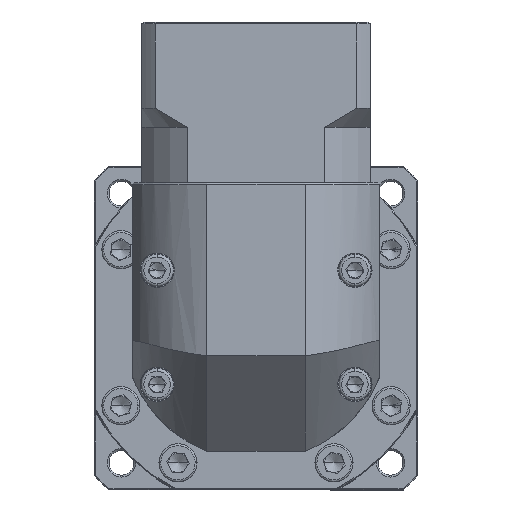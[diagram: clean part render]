
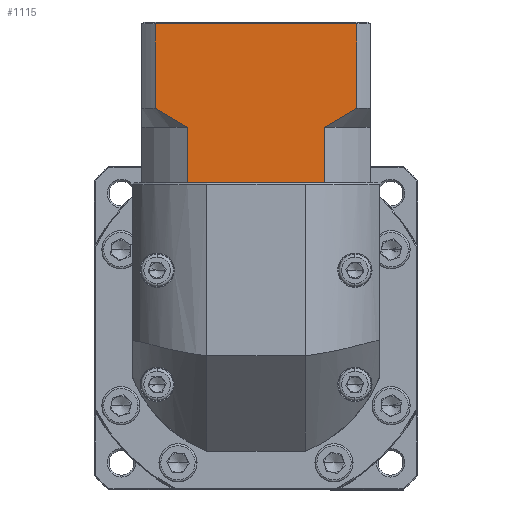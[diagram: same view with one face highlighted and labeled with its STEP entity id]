
A CAD part, top view. The second image highlights one B-rep face of the part: STEP entity #1115.
In plain terms, the highlighted planar face has unit normal (0, 0, 1).
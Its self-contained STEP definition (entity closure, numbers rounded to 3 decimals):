
#1115 = ADVANCED_FACE ( 'NONE', ( #37849 ), #25105, .F. ) ;
#1740 = DIRECTION ( 'NONE',  ( 1., 0., 0. ) ) ;
#2250 = CARTESIAN_POINT ( 'NONE',  ( -55.932, 59.958, 41.119 ) ) ;
#4308 = CARTESIAN_POINT ( 'NONE',  ( -54.941, 59.958, 41.119 ) ) ;
#4606 = VERTEX_POINT ( 'NONE', #2250 ) ;
#5157 = B_SPLINE_CURVE_WITH_KNOTS ( 'NONE', 3,
 ( #68075, #87482, #129347, #46867, #47736, #117454 ),
 .UNSPECIFIED., .F., .F.,
 ( 4, 2, 4 ),
 ( 0.1, 0.104, 0.109 ),
 .UNSPECIFIED. ) ;
#7081 = EDGE_CURVE ( 'NONE', #14600, #31326, #82410, .T. ) ;
#9772 = LINE ( 'NONE', #111837, #14532 ) ;
#11993 = DIRECTION ( 'NONE',  ( 0., 1., 0. ) ) ;
#12532 = CARTESIAN_POINT ( 'NONE',  ( -99.427, 79.458, 41.119 ) ) ;
#14532 = VECTOR ( 'NONE', #72142, 1000. ) ;
#14600 = VERTEX_POINT ( 'NONE', #109725 ) ;
#19141 = CARTESIAN_POINT ( 'NONE',  ( -46.512, 79.458, 41.119 ) ) ;
#20353 = LINE ( 'NONE', #92929, #63112 ) ;
#21055 = ORIENTED_EDGE ( 'NONE', *, *, #94317, .T. ) ;
#25105 = PLANE ( 'NONE',  #71636 ) ;
#26863 = VERTEX_POINT ( 'NONE', #77198 ) ;
#26908 = LINE ( 'NONE', #95545, #121609 ) ;
#27023 = ORIENTED_EDGE ( 'NONE', *, *, #46005, .T. ) ;
#28994 = CARTESIAN_POINT ( 'NONE',  ( -90.997, 59.958, 41.119 ) ) ;
#31326 = VERTEX_POINT ( 'NONE', #67905 ) ;
#31336 = VERTEX_POINT ( 'NONE', #28994 ) ;
#32384 = VECTOR ( 'NONE', #11993, 1000. ) ;
#33716 = CARTESIAN_POINT ( 'NONE',  ( -90.997, 74.458, 41.119 ) ) ;
#34614 = DIRECTION ( 'NONE',  ( 1., 0., 0. ) ) ;
#34792 = DIRECTION ( 'NONE',  ( 0., 1., 0. ) ) ;
#35507 = EDGE_CURVE ( 'NONE', #57054, #81745, #20353, .T. ) ;
#35688 = EDGE_CURVE ( 'NONE', #26863, #51649, #26908, .T. ) ;
#37139 = LINE ( 'NONE', #102450, #32384 ) ;
#37849 = FACE_OUTER_BOUND ( 'NONE', #74542, .T. ) ;
#40427 = EDGE_CURVE ( 'NONE', #57054, #66447, #56610, .T. ) ;
#43910 = CARTESIAN_POINT ( 'NONE',  ( -92.449, 75.206, 41.119 ) ) ;
#44799 = CARTESIAN_POINT ( 'NONE',  ( -96.688, 77.685, 41.119 ) ) ;
#46005 = EDGE_CURVE ( 'NONE', #31336, #62729, #109254, .T. ) ;
#46867 = CARTESIAN_POINT ( 'NONE',  ( -49.254, 77.683, 41.119 ) ) ;
#47319 = EDGE_CURVE ( 'NONE', #62729, #4606, #105333, .T. ) ;
#47736 = CARTESIAN_POINT ( 'NONE',  ( -47.874, 78.557, 41.119 ) ) ;
#50179 = DIRECTION ( 'NONE',  ( 0., -1., 0. ) ) ;
#51649 = VERTEX_POINT ( 'NONE', #4308 ) ;
#53413 = VECTOR ( 'NONE', #50179, 1000. ) ;
#56610 = LINE ( 'NONE', #111497, #53413 ) ;
#57054 = VERTEX_POINT ( 'NONE', #67761 ) ;
#58671 = CARTESIAN_POINT ( 'NONE',  ( -90.006, 59.958, 41.119 ) ) ;
#62729 = VERTEX_POINT ( 'NONE', #58671 ) ;
#63112 = VECTOR ( 'NONE', #110076, 1000. ) ;
#65128 = VECTOR ( 'NONE', #1740, 1000. ) ;
#66176 = ORIENTED_EDGE ( 'NONE', *, *, #47319, .T. ) ;
#66447 = VERTEX_POINT ( 'NONE', #19141 ) ;
#66493 = LINE ( 'NONE', #84551, #97983 ) ;
#67761 = CARTESIAN_POINT ( 'NONE',  ( -46.512, 101.658, 41.119 ) ) ;
#67905 = CARTESIAN_POINT ( 'NONE',  ( -90.997, 74.458, 41.119 ) ) ;
#68075 = CARTESIAN_POINT ( 'NONE',  ( -54.941, 74.458, 41.119 ) ) ;
#70061 = CARTESIAN_POINT ( 'NONE',  ( -102.969, 59.958, 41.119 ) ) ;
#71521 = CARTESIAN_POINT ( 'NONE',  ( -102.969, 59.958, 41.119 ) ) ;
#71636 = AXIS2_PLACEMENT_3D ( 'NONE', #128815, #77715, #34792 ) ;
#72034 = ORIENTED_EDGE ( 'NONE', *, *, #85224, .T. ) ;
#72142 = DIRECTION ( 'NONE',  ( 0., 1., 0. ) ) ;
#73542 = CARTESIAN_POINT ( 'NONE',  ( -99.427, 101.658, 41.119 ) ) ;
#73893 = ORIENTED_EDGE ( 'NONE', *, *, #40427, .F. ) ;
#73945 = DIRECTION ( 'NONE',  ( 0., -1., 0. ) ) ;
#74542 = EDGE_LOOP ( 'NONE', ( #73893, #114762, #88639, #83033, #99044, #27023, #66176, #72034, #126440, #21055 ) ) ;
#77198 = CARTESIAN_POINT ( 'NONE',  ( -54.941, 74.458, 41.119 ) ) ;
#77715 = DIRECTION ( 'NONE',  ( 0., 0., -1. ) ) ;
#81745 = VERTEX_POINT ( 'NONE', #73542 ) ;
#82410 = B_SPLINE_CURVE_WITH_KNOTS ( 'NONE', 3,
 ( #12532, #83658, #44799, #113606, #43910, #33716 ),
 .UNSPECIFIED., .F., .F.,
 ( 4, 2, 4 ),
 ( 0.052, 0.057, 0.062 ),
 .UNSPECIFIED. ) ;
#83033 = ORIENTED_EDGE ( 'NONE', *, *, #7081, .T. ) ;
#83658 = CARTESIAN_POINT ( 'NONE',  ( -98.067, 78.559, 41.119 ) ) ;
#84551 = CARTESIAN_POINT ( 'NONE',  ( -102.969, 59.958, 41.119 ) ) ;
#85224 = EDGE_CURVE ( 'NONE', #4606, #51649, #66493, .T. ) ;
#87482 = CARTESIAN_POINT ( 'NONE',  ( -53.485, 75.208, 41.119 ) ) ;
#88639 = ORIENTED_EDGE ( 'NONE', *, *, #128689, .F. ) ;
#92929 = CARTESIAN_POINT ( 'NONE',  ( -102.969, 101.658, 41.119 ) ) ;
#94317 = EDGE_CURVE ( 'NONE', #26863, #66447, #5157, .T. ) ;
#95545 = CARTESIAN_POINT ( 'NONE',  ( -54.941, 74.458, 41.119 ) ) ;
#97983 = VECTOR ( 'NONE', #34614, 1000. ) ;
#99035 = VECTOR ( 'NONE', #99626, 1000. ) ;
#99044 = ORIENTED_EDGE ( 'NONE', *, *, #105464, .F. ) ;
#99626 = DIRECTION ( 'NONE',  ( 1., 0., 0. ) ) ;
#102450 = CARTESIAN_POINT ( 'NONE',  ( -99.427, 74.458, 41.119 ) ) ;
#105333 = LINE ( 'NONE', #70061, #99035 ) ;
#105464 = EDGE_CURVE ( 'NONE', #31336, #31326, #9772, .T. ) ;
#109254 = LINE ( 'NONE', #71521, #65128 ) ;
#109725 = CARTESIAN_POINT ( 'NONE',  ( -99.427, 79.458, 41.119 ) ) ;
#110076 = DIRECTION ( 'NONE',  ( -1., 0., 0. ) ) ;
#111497 = CARTESIAN_POINT ( 'NONE',  ( -46.512, 74.458, 41.119 ) ) ;
#111837 = CARTESIAN_POINT ( 'NONE',  ( -90.997, 74.458, 41.119 ) ) ;
#113606 = CARTESIAN_POINT ( 'NONE',  ( -93.88, 76.01, 41.119 ) ) ;
#114762 = ORIENTED_EDGE ( 'NONE', *, *, #35507, .T. ) ;
#117454 = CARTESIAN_POINT ( 'NONE',  ( -46.512, 79.458, 41.119 ) ) ;
#121609 = VECTOR ( 'NONE', #73945, 1000. ) ;
#126440 = ORIENTED_EDGE ( 'NONE', *, *, #35688, .F. ) ;
#128689 = EDGE_CURVE ( 'NONE', #14600, #81745, #37139, .T. ) ;
#128815 = CARTESIAN_POINT ( 'NONE',  ( -102.969, 102.158, 41.119 ) ) ;
#129347 = CARTESIAN_POINT ( 'NONE',  ( -52.059, 76.009, 41.119 ) ) ;
